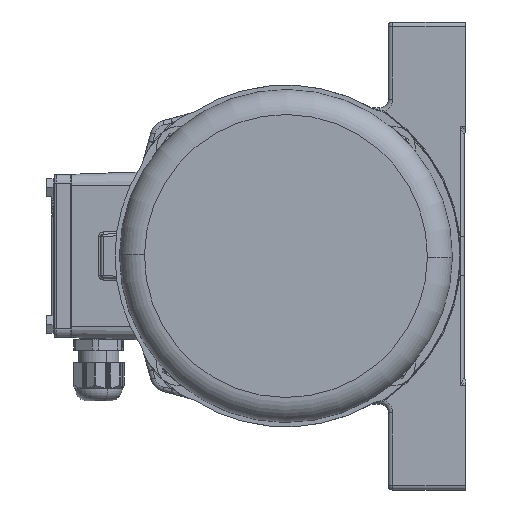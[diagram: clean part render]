
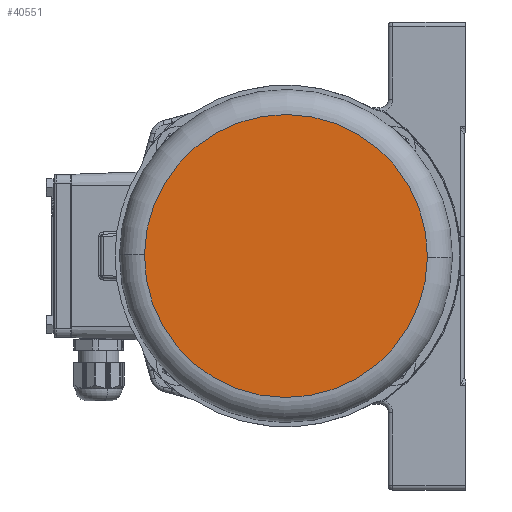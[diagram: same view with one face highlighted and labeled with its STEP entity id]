
A CAD part, left-side view. The second image highlights one B-rep face of the part: STEP entity #40551.
In plain terms, the highlighted planar face has unit normal (-1, 0, 0).
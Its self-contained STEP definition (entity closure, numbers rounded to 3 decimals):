
#1042 = CIRCLE ( 'NONE', #5880, 65. ) ;
#1723 = DIRECTION ( 'NONE',  ( 0., 0., 1. ) ) ;
#5274 = AXIS2_PLACEMENT_3D ( 'NONE', #18551, #28952, #1723 ) ;
#5880 = AXIS2_PLACEMENT_3D ( 'NONE', #27949, #7345, #13985 ) ;
#7345 = DIRECTION ( 'NONE',  ( -1., 0., 0. ) ) ;
#8282 = CIRCLE ( 'NONE', #5274, 65. ) ;
#12656 = CARTESIAN_POINT ( 'NONE',  ( -1.5, 0., -65. ) ) ;
#13791 = VERTEX_POINT ( 'NONE', #17036 ) ;
#13985 = DIRECTION ( 'NONE',  ( 0., 0., 1. ) ) ;
#17036 = CARTESIAN_POINT ( 'NONE',  ( -1.5, 0., 65. ) ) ;
#18258 = EDGE_CURVE ( 'NONE', #23592, #13791, #8282, .T. ) ;
#18551 = CARTESIAN_POINT ( 'NONE',  ( -1.5, 0., 0. ) ) ;
#23592 = VERTEX_POINT ( 'NONE', #12656 ) ;
#23821 = AXIS2_PLACEMENT_3D ( 'NONE', #24658, #42088, #24798 ) ;
#24658 = CARTESIAN_POINT ( 'NONE',  ( -1.5, 65., 0. ) ) ;
#24798 = DIRECTION ( 'NONE',  ( 0., 0., -1. ) ) ;
#27949 = CARTESIAN_POINT ( 'NONE',  ( -1.5, 0., 0. ) ) ;
#28952 = DIRECTION ( 'NONE',  ( -1., 0., 0. ) ) ;
#31099 = PLANE ( 'NONE',  #23821 ) ;
#31782 = ORIENTED_EDGE ( 'NONE', *, *, #18258, .T. ) ;
#36789 = EDGE_LOOP ( 'NONE', ( #41073, #31782 ) ) ;
#38755 = EDGE_CURVE ( 'NONE', #13791, #23592, #1042, .T. ) ;
#40551 = ADVANCED_FACE ( 'NONE', ( #43468 ), #31099, .F. ) ;
#41073 = ORIENTED_EDGE ( 'NONE', *, *, #38755, .T. ) ;
#42088 = DIRECTION ( 'NONE',  ( 1., 0., 0. ) ) ;
#43468 = FACE_OUTER_BOUND ( 'NONE', #36789, .T. ) ;
